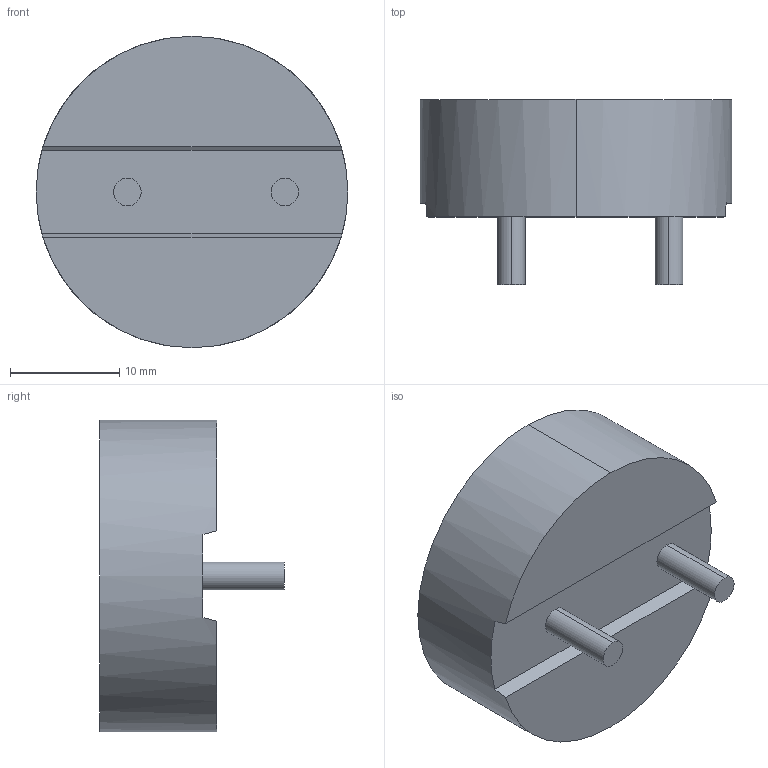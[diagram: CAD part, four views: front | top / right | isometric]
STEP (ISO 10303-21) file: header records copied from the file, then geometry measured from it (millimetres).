
FILE_DESCRIPTION (( 'STEP AP214' ), '1' );
FILE_NAME ('IHTH_IHTH1125KZ 1uH.step', '2014-06-30T13:58:20', ( '' ), ( '' ), 'SwSTEP 2.0', 'SolidWorks 2014', '' );
FILE_SCHEMA (( 'AUTOMOTIVE_DESIGN' ));
Length unit declared in the file: inch
Products named in the file (1): IHTH_IHTH1125KZ   1uH
Bounding box: 28.57 x 16.94 x 28.57 mm (x, y, z)
Volume: 6680.6 mm3; surface area: 2400.2 mm2
Topology: 1 solids, 1 shells, 39 faces, 90 edges, 60 vertices
Faces by surface type: plane 33, cylinder 6
Entity records: 1231 total; most frequent: CARTESIAN_POINT 202, DIRECTION 182, ORIENTED_EDGE 180, EDGE_CURVE 90, LINE 70, VECTOR 70, VERTEX_POINT 60, AXIS2_PLACEMENT_3D 56
